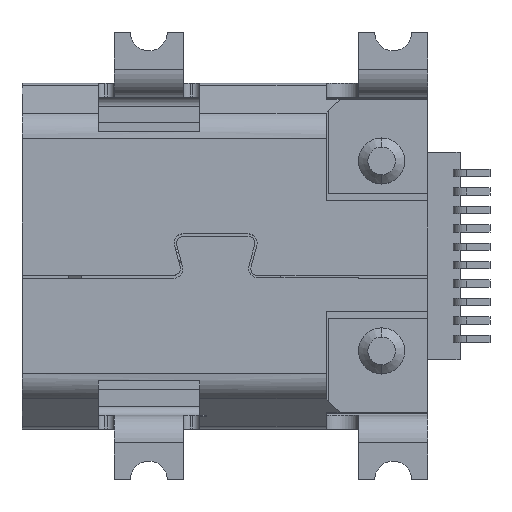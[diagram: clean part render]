
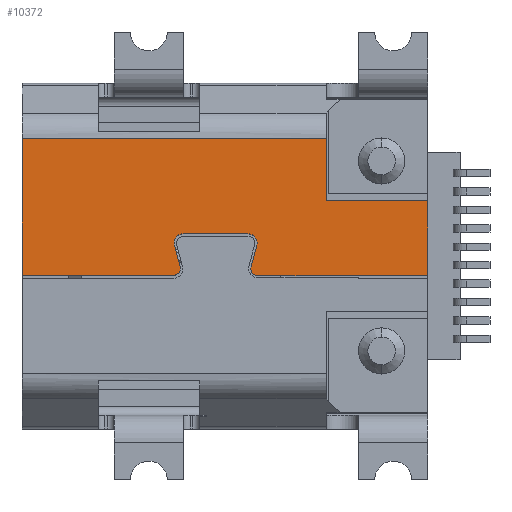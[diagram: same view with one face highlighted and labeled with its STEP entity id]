
A CAD part, top view. The second image highlights one B-rep face of the part: STEP entity #10372.
In plain terms, the highlighted planar face has unit normal (0, 0, 1).
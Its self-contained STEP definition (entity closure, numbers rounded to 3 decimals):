
#647=DIRECTION('',(-1.,0.,0.));
#648=VECTOR('',#647,6.6);
#649=CARTESIAN_POINT('',(1.,2.55,1.7));
#650=LINE('',#649,#648);
#663=DIRECTION('',(0.,1.,0.));
#664=VECTOR('',#663,1.35);
#665=CARTESIAN_POINT('',(1.,1.2,1.7));
#666=LINE('',#665,#664);
#705=CARTESIAN_POINT('',(-0.486,-0.275,1.7));
#706=DIRECTION('',(0.,0.,-1.));
#707=DIRECTION('',(0.,-1.,0.));
#708=AXIS2_PLACEMENT_3D('',#705,#706,#707);
#710=DIRECTION('',(0.259,0.966,0.));
#711=VECTOR('',#710,0.481);
#712=CARTESIAN_POINT('',(-0.631,-0.236,1.7));
#713=LINE('',#712,#711);
#714=CARTESIAN_POINT('',(-0.7,0.28,1.7));
#715=DIRECTION('',(0.,0.,1.));
#716=DIRECTION('',(0.966,-0.259,0.));
#717=AXIS2_PLACEMENT_3D('',#714,#715,#716);
#719=CARTESIAN_POINT('',(-2.1,0.28,1.7));
#720=DIRECTION('',(0.,0.,1.));
#721=DIRECTION('',(0.,1.,0.));
#722=AXIS2_PLACEMENT_3D('',#719,#720,#721);
#724=DIRECTION('',(0.259,-0.966,0.));
#725=VECTOR('',#724,0.476);
#726=CARTESIAN_POINT('',(-2.293,0.228,1.7));
#727=LINE('',#726,#725);
#728=CARTESIAN_POINT('',(-2.315,-0.27,1.7));
#729=DIRECTION('',(0.,0.,-1.));
#730=DIRECTION('',(0.966,0.259,0.));
#731=AXIS2_PLACEMENT_3D('',#728,#729,#730);
#737=DIRECTION('',(-1.,0.,0.));
#738=VECTOR('',#737,2.2);
#739=CARTESIAN_POINT('',(3.2,1.2,1.7));
#740=LINE('',#739,#738);
#1093=DIRECTION('',(0.,-1.,0.));
#1094=VECTOR('',#1093,2.97);
#1095=CARTESIAN_POINT('',(-5.6,2.55,1.7));
#1096=LINE('',#1095,#1094);
#7000=DIRECTION('',(1.,0.,0.));
#7001=VECTOR('',#7000,3.285);
#7002=CARTESIAN_POINT('',(-5.6,-0.42,1.7));
#7003=LINE('',#7002,#7001);
#7024=DIRECTION('',(1.,0.,0.));
#7025=VECTOR('',#7024,1.4);
#7026=CARTESIAN_POINT('',(-2.1,0.48,1.7));
#7027=LINE('',#7026,#7025);
#7048=DIRECTION('',(1.,0.,0.));
#7049=VECTOR('',#7048,3.686);
#7050=CARTESIAN_POINT('',(-0.486,-0.425,1.7));
#7051=LINE('',#7050,#7049);
#7064=DIRECTION('',(0.,1.,0.));
#7065=VECTOR('',#7064,1.625);
#7066=CARTESIAN_POINT('',(3.2,-0.425,1.7));
#7067=LINE('',#7066,#7065);
#7453=CARTESIAN_POINT('',(-5.6,2.55,1.7));
#7454=VERTEX_POINT('',#7453);
#7455=CARTESIAN_POINT('',(-5.6,-0.42,1.7));
#7456=VERTEX_POINT('',#7455);
#8213=CARTESIAN_POINT('',(1.,2.55,1.7));
#8214=VERTEX_POINT('',#8213);
#8217=CARTESIAN_POINT('',(1.,1.2,1.7));
#8218=VERTEX_POINT('',#8217);
#8225=CARTESIAN_POINT('',(3.2,1.2,1.7));
#8226=VERTEX_POINT('',#8225);
#8227=CARTESIAN_POINT('',(3.2,-0.425,1.7));
#8228=VERTEX_POINT('',#8227);
#8229=CARTESIAN_POINT('',(-0.486,-0.425,1.7));
#8230=VERTEX_POINT('',#8229);
#8231=CARTESIAN_POINT('',(-0.631,-0.236,1.7));
#8232=VERTEX_POINT('',#8231);
#8233=CARTESIAN_POINT('',(-0.507,0.228,1.7));
#8234=VERTEX_POINT('',#8233);
#8235=CARTESIAN_POINT('',(-0.7,0.48,1.7));
#8236=VERTEX_POINT('',#8235);
#8237=CARTESIAN_POINT('',(-2.1,0.48,1.7));
#8238=VERTEX_POINT('',#8237);
#8239=CARTESIAN_POINT('',(-2.293,0.228,1.7));
#8240=VERTEX_POINT('',#8239);
#8241=CARTESIAN_POINT('',(-2.17,-0.231,1.7));
#8242=VERTEX_POINT('',#8241);
#8243=CARTESIAN_POINT('',(-2.315,-0.42,1.7));
#8244=VERTEX_POINT('',#8243);
#10339=CARTESIAN_POINT('',(-5.6,2.55,1.7));
#10340=DIRECTION('',(0.,0.,-1.));
#10341=DIRECTION('',(0.,-1.,0.));
#10342=AXIS2_PLACEMENT_3D('',#10339,#10340,#10341);
#10343=PLANE('',#10342);
#10344=ORIENTED_EDGE('',*,*,#10317,.F.);
#10346=ORIENTED_EDGE('',*,*,#10345,.F.);
#10348=ORIENTED_EDGE('',*,*,#10347,.F.);
#10350=ORIENTED_EDGE('',*,*,#10349,.F.);
#10352=ORIENTED_EDGE('',*,*,#10351,.T.);
#10354=ORIENTED_EDGE('',*,*,#10353,.T.);
#10356=ORIENTED_EDGE('',*,*,#10355,.T.);
#10358=ORIENTED_EDGE('',*,*,#10357,.F.);
#10360=ORIENTED_EDGE('',*,*,#10359,.T.);
#10362=ORIENTED_EDGE('',*,*,#10361,.T.);
#10364=ORIENTED_EDGE('',*,*,#10363,.T.);
#10366=ORIENTED_EDGE('',*,*,#10365,.F.);
#10368=ORIENTED_EDGE('',*,*,#10367,.F.);
#10369=ORIENTED_EDGE('',*,*,#10296,.F.);
#10370=EDGE_LOOP('',(#10344,#10346,#10348,#10350,#10352,#10354,#10356,#10358,
#10360,#10362,#10364,#10366,#10368,#10369));
#10371=FACE_OUTER_BOUND('',#10370,.F.);
#709=CIRCLE('',#708,0.15);
#718=CIRCLE('',#717,0.2);
#723=CIRCLE('',#722,0.2);
#732=CIRCLE('',#731,0.15);
#10296=EDGE_CURVE('',#8214,#7454,#650,.T.);
#10317=EDGE_CURVE('',#8218,#8214,#666,.T.);
#10345=EDGE_CURVE('',#8226,#8218,#740,.T.);
#10347=EDGE_CURVE('',#8228,#8226,#7067,.T.);
#10349=EDGE_CURVE('',#8230,#8228,#7051,.T.);
#10351=EDGE_CURVE('',#8230,#8232,#709,.T.);
#10353=EDGE_CURVE('',#8232,#8234,#713,.T.);
#10355=EDGE_CURVE('',#8234,#8236,#718,.T.);
#10357=EDGE_CURVE('',#8238,#8236,#7027,.T.);
#10359=EDGE_CURVE('',#8238,#8240,#723,.T.);
#10361=EDGE_CURVE('',#8240,#8242,#727,.T.);
#10363=EDGE_CURVE('',#8242,#8244,#732,.T.);
#10365=EDGE_CURVE('',#7456,#8244,#7003,.T.);
#10367=EDGE_CURVE('',#7454,#7456,#1096,.T.);
#10372=ADVANCED_FACE('',(#10371),#10343,.F.);
